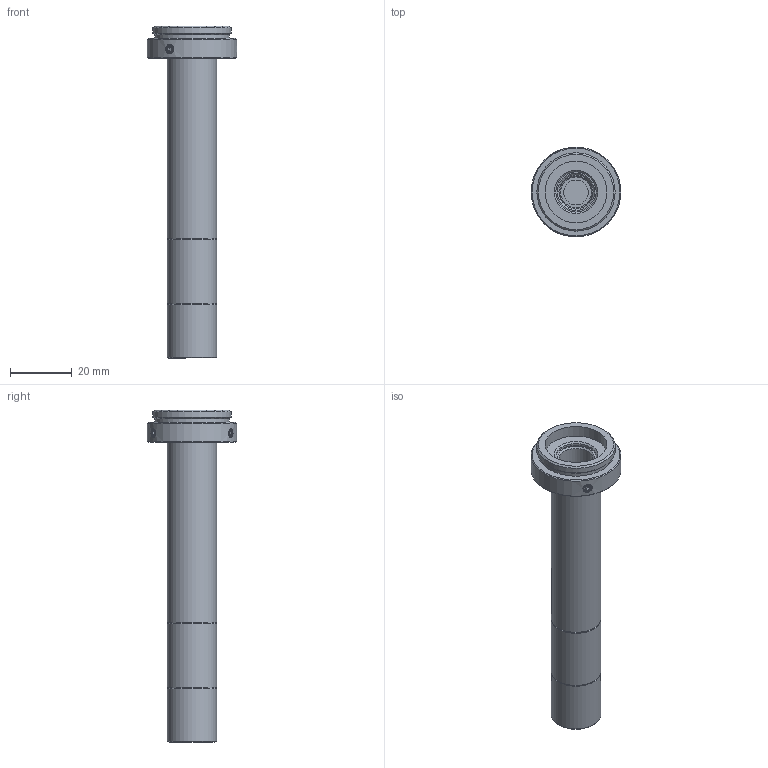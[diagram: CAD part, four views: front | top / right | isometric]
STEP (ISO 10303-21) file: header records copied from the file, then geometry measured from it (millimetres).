
FILE_DESCRIPTION(('STEP AP214'),'1');
FILE_NAME('RTK-8-65.stp','2026-03-16T07:11:20',(' '),(' '),'Spatial InterOp 3D',' ',' ');
FILE_SCHEMA(('AUTOMOTIVE_DESIGN { 1 0 10303 214 1 1 1 1 }'));
Length unit declared in the file: metre
Products named in the file (2): RTK-8-65; Component1
Assembly tree (1 placements, depth 2):
  RTK-8-65
    Component1
Bounding box: 29 x 29 x 107.28 mm (x, y, z)
Volume: 14396.6 mm3; surface area: 11458.2 mm2
Topology: 1 solids, 1 shells, 134 faces, 302 edges, 197 vertices
Faces by surface type: plane 53, cone 50, cylinder 26, bspline 3, sphere 2
Full cylindrical faces by diameter (mm): 8 x1, 10 x2, 11 x1, 12 x3, 13 x2, 13.4 x2, 13.5 x2, 13.7 x1, 14.2 x2, 14.7 x1, 16 x3, 20 x1, 24.12 x1, 25.32 x1, 29 x1
Entity records: 4798 total; most frequent: CARTESIAN_POINT 1014, DIRECTION 560, ORIENTED_EDGE 454, AXIS2_PLACEMENT_3D 236, EDGE_CURVE 227, EDGE_LOOP 216, VERTEX_POINT 179, FACE_OUTER_BOUND 160
